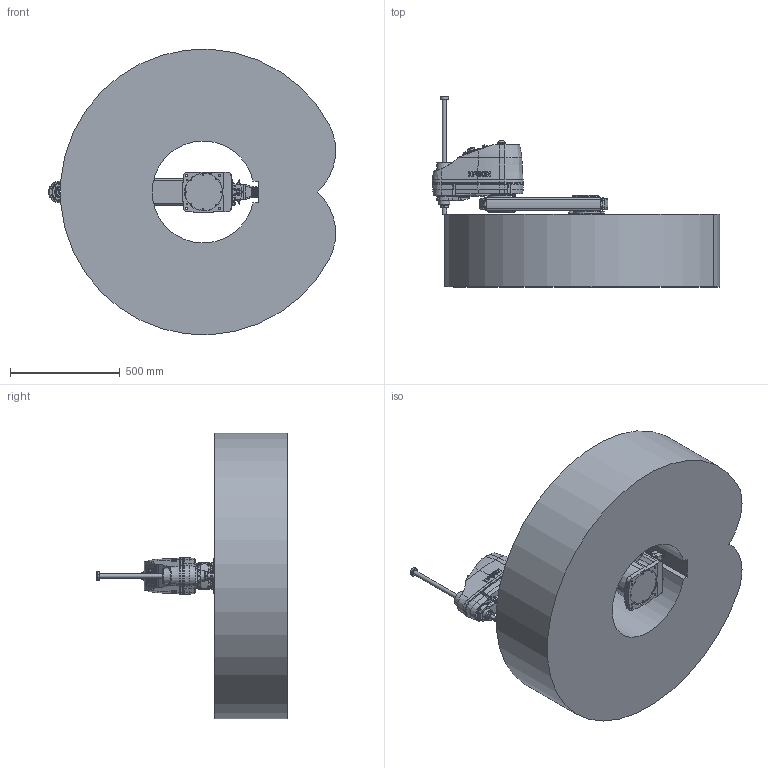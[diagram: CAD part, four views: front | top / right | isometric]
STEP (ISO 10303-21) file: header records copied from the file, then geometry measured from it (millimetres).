
FILE_DESCRIPTION( ( 'STEP AP214' ), '1' );
FILE_NAME( 'C:/Users/9607552/Desktop/GX8-B653S_straight.stp', '2023-07-07T02:53:57', ( '' ), ( '' ), ' ', 'PARTsolutions', ' ' );
FILE_SCHEMA( ( 'AUTOMOTIVE_DESIGN { 1 0 10303 214 1 1 1 1 }' ) );
Length unit declared in the file: millimetre
Products named in the file (9): GX8-B653SS-W; _B452S_BASE; _B652S; _B652S_1; _B652S_2; _B452S_J2; _B453SZA; _Straight-B; _GX8-25-1-B_WS
Assembly tree (10 placements, depth 2):
  GX8-B653SS-W
    _B452S_BASE
    _B652S
    _B652S_1  x2
    _B652S_2  x2
    _B452S_J2
    _B453SZA
    _Straight-B
    _GX8-25-1-B_WS
Bounding box: 1308.1 x 865 x 1298.02 mm (x, y, z)
Volume: 396418084.6 mm3; surface area: 5254046.3 mm2
Topology: 10 solids, 10 shells, 2887 faces, 7042 edges, 4586 vertices
Faces by surface type: plane 1437, cylinder 920, cone 365, torus 122, bspline 37, sphere 6
Full cylindrical faces by diameter (mm): 1 x48, 1.18 x55, 2.261 x4, 2.459 x12, 3 x32, 3.242 x18, 3.3 x5, 3.9 x4, 4 x4, 4.2 x8, 4.5 x4, 4.8 x4, 5.34 x4, 5.5 x17, 6 x1, 6.2 x4, 6.647 x4, 6.8 x2, 7 x48, 8 x5, 8.5 x4, 9 x24, 10 x18, 11 x4, 11.2 x5, 11.5 x1, 12 x5, 12.25 x1, 13 x3, 13.2 x12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
Entity records: 103061 total; most frequent: CARTESIAN_POINT 19674, DIRECTION 12682, ORIENTED_EDGE 11734, EDGE_CURVE 5867, AXIS2_PLACEMENT_3D 4903, VERTEX_POINT 4216, EDGE_LOOP 3814, FACE_OUTER_BOUND 3176
